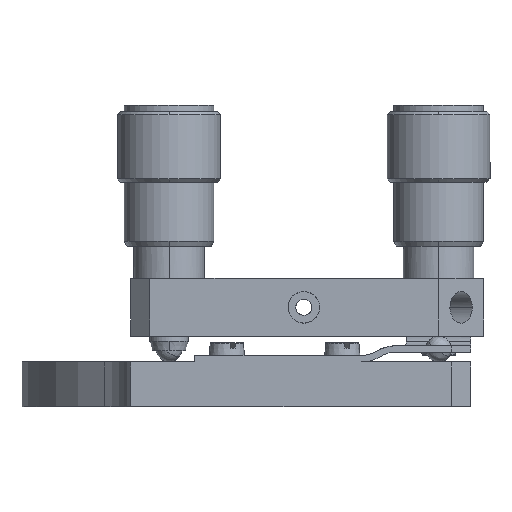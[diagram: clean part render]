
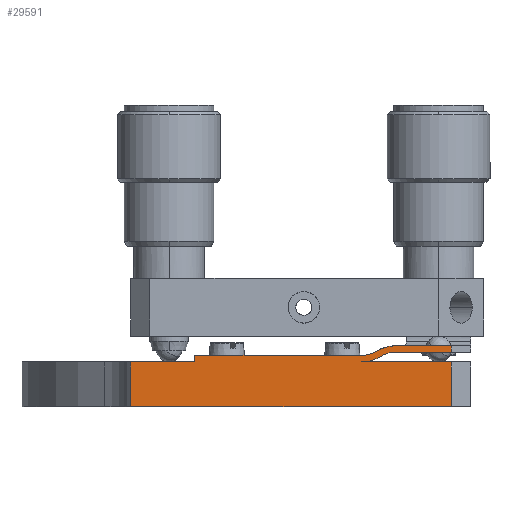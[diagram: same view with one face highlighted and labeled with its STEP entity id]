
A CAD part, left-side view. The second image highlights one B-rep face of the part: STEP entity #29591.
In plain terms, the highlighted planar face has unit normal (-1, 0, 0).
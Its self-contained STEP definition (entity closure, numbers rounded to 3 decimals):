
#7333 = CARTESIAN_POINT ( 'NONE',  ( -52.56, -23.333, -28.253 ) ) ;
#11035 = CARTESIAN_POINT ( 'NONE',  ( -52.56, 2.667, -28.253 ) ) ;
#11036 = DIRECTION ( 'NONE',  ( 0., 1., 0. ) ) ;
#11037 = VECTOR ( 'NONE', #11036, 1000. ) ;
#11038 = CARTESIAN_POINT ( 'NONE',  ( -52.56, -5.333, -28.253 ) ) ;
#11039 = LINE ( 'NONE', #11038, #11037 ) ;
#11040 = CARTESIAN_POINT ( 'NONE',  ( -52.56, 12.667, -28.253 ) ) ;
#11078 = CARTESIAN_POINT ( 'NONE',  ( -52.56, -37.333, -28.253 ) ) ;
#11079 = DIRECTION ( 'NONE',  ( 0., 1., 0. ) ) ;
#11080 = VECTOR ( 'NONE', #11079, 1000. ) ;
#11081 = CARTESIAN_POINT ( 'NONE',  ( -52.56, -5.333, -28.253 ) ) ;
#11082 = LINE ( 'NONE', #11081, #11080 ) ;
#25097 = VERTEX_POINT ( 'NONE', #7333 ) ;
#25254 = VERTEX_POINT ( 'NONE', #11040 ) ;
#25256 = EDGE_CURVE ( 'NONE', #25257, #25254, #11039, .T. ) ;
#25257 = VERTEX_POINT ( 'NONE', #11035 ) ;
#25278 = EDGE_CURVE ( 'NONE', #25280, #25097, #11082, .T. ) ;
#25280 = VERTEX_POINT ( 'NONE', #11078 ) ;
#25523 = CARTESIAN_POINT ( 'NONE',  ( -52.56, -28.319, -25.753 ) ) ;
#25600 = CARTESIAN_POINT ( 'NONE',  ( -52.56, 2.667, -27.253 ) ) ;
#25602 = DIRECTION ( 'NONE',  ( 0., 0., -1. ) ) ;
#25604 = VECTOR ( 'NONE', #25602, 1000. ) ;
#25606 = CARTESIAN_POINT ( 'NONE',  ( -52.56, 2.667, -27.753 ) ) ;
#25607 = LINE ( 'NONE', #25606, #25604 ) ;
#25630 = DIRECTION ( 'NONE',  ( 0., 1., 0. ) ) ;
#25632 = VECTOR ( 'NONE', #25630, 1000. ) ;
#25633 = CARTESIAN_POINT ( 'NONE',  ( -52.56, 2.667, -25.753 ) ) ;
#25635 = LINE ( 'NONE', #25633, #25632 ) ;
#25652 = CARTESIAN_POINT ( 'NONE',  ( -52.56, -37.333, -25.753 ) ) ;
#25681 = DIRECTION ( 'NONE',  ( 0., 0., 1. ) ) ;
#25683 = DIRECTION ( 'NONE',  ( 1., 0., 0. ) ) ;
#25685 = CARTESIAN_POINT ( 'NONE',  ( -52.56, -23.333, -22.753 ) ) ;
#25686 = AXIS2_PLACEMENT_3D ( 'NONE', #25685, #25683, #25681 ) ;
#25688 = CIRCLE ( 'NONE', #25686, 5.5 ) ;
#25703 = CARTESIAN_POINT ( 'NONE',  ( -52.56, -26.237, -27.424 ) ) ;
#25804 = DIRECTION ( 'NONE',  ( 0., -1., 0. ) ) ;
#25806 = VECTOR ( 'NONE', #25804, 1000. ) ;
#25808 = CARTESIAN_POINT ( 'NONE',  ( -52.56, 2.667, -26.753 ) ) ;
#25809 = LINE ( 'NONE', #25808, #25806 ) ;
#25933 = CARTESIAN_POINT ( 'NONE',  ( -52.56, -28.348, -26.753 ) ) ;
#25934 = CARTESIAN_POINT ( 'NONE',  ( -52.56, -37.333, -26.753 ) ) ;
#26424 = FACE_OUTER_BOUND ( 'NONE', #29605, .T. ) ;
#26513 = DIRECTION ( 'NONE',  ( 0., 0., 1. ) ) ;
#26515 = DIRECTION ( 'NONE',  ( 1., 0., 0. ) ) ;
#26516 = CARTESIAN_POINT ( 'NONE',  ( -52.56, -23.333, -22.753 ) ) ;
#26518 = AXIS2_PLACEMENT_3D ( 'NONE', #26516, #26515, #26513 ) ;
#26520 = CIRCLE ( 'NONE', #26518, 4.5 ) ;
#26525 = DIRECTION ( 'NONE',  ( 0., 0., 1. ) ) ;
#26527 = DIRECTION ( 'NONE',  ( -1., 0., 0. ) ) ;
#26529 = CARTESIAN_POINT ( 'NONE',  ( -52.56, 2.667, -27.753 ) ) ;
#26530 = AXIS2_PLACEMENT_3D ( 'NONE', #26529, #26527, #26525 ) ;
#26535 = PLANE ( 'NONE',  #26530 ) ;
#26605 = DIRECTION ( 'NONE',  ( 0., 0., -1. ) ) ;
#26606 = VECTOR ( 'NONE', #26605, 1000. ) ;
#26607 = CARTESIAN_POINT ( 'NONE',  ( -52.56, 12.667, -27.753 ) ) ;
#26609 = LINE ( 'NONE', #26607, #26606 ) ;
#26613 = CARTESIAN_POINT ( 'NONE',  ( -52.56, 12.667, -35.253 ) ) ;
#26626 = DIRECTION ( 'NONE',  ( 0., 0., -1. ) ) ;
#26628 = DIRECTION ( 'NONE',  ( -1., 0., 0. ) ) ;
#26629 = CARTESIAN_POINT ( 'NONE',  ( -52.56, -28.614, -31.245 ) ) ;
#26631 = AXIS2_PLACEMENT_3D ( 'NONE', #26629, #26628, #26626 ) ;
#26632 = CIRCLE ( 'NONE', #26631, 5.5 ) ;
#26658 = CARTESIAN_POINT ( 'NONE',  ( -52.56, -25.709, -26.575 ) ) ;
#26676 = CARTESIAN_POINT ( 'NONE',  ( -52.56, -28.305, -25.754 ) ) ;
#26746 = DIRECTION ( 'NONE',  ( 0., 0., -1. ) ) ;
#26748 = DIRECTION ( 'NONE',  ( 1., 0., 0. ) ) ;
#26750 = CARTESIAN_POINT ( 'NONE',  ( -52.56, -28.614, -31.245 ) ) ;
#26752 = AXIS2_PLACEMENT_3D ( 'NONE', #26750, #26748, #26746 ) ;
#26754 = CIRCLE ( 'NONE', #26752, 4.5 ) ;
#26772 = CARTESIAN_POINT ( 'NONE',  ( -52.56, -23.333, -27.253 ) ) ;
#26899 = DIRECTION ( 'NONE',  ( 0., 0., -1. ) ) ;
#26901 = VECTOR ( 'NONE', #26899, 1000. ) ;
#26903 = CARTESIAN_POINT ( 'NONE',  ( -52.56, -37.333, -27.003 ) ) ;
#26904 = LINE ( 'NONE', #26903, #26901 ) ;
#26927 = DIRECTION ( 'NONE',  ( 0., -0.998, 0.056 ) ) ;
#26928 = VECTOR ( 'NONE', #26927, 1000. ) ;
#26931 = CARTESIAN_POINT ( 'NONE',  ( -52.56, -28.305, -25.754 ) ) ;
#26932 = LINE ( 'NONE', #26931, #26928 ) ;
#26995 = LINE ( 'NONE', #27080, #27053 ) ;
#27051 = DIRECTION ( 'NONE',  ( 0., 1., 0. ) ) ;
#27053 = VECTOR ( 'NONE', #27051, 1000. ) ;
#27080 = CARTESIAN_POINT ( 'NONE',  ( -52.56, 2.667, -27.253 ) ) ;
#27114 = CARTESIAN_POINT ( 'NONE',  ( -52.56, -37.333, -35.253 ) ) ;
#27116 = DIRECTION ( 'NONE',  ( 0., -1., 0. ) ) ;
#27117 = VECTOR ( 'NONE', #27116, 1000. ) ;
#27120 = CARTESIAN_POINT ( 'NONE',  ( -52.56, 2.667, -35.253 ) ) ;
#27209 = LINE ( 'NONE', #27120, #27117 ) ;
#27456 = DIRECTION ( 'NONE',  ( 0., 0., 1. ) ) ;
#27457 = VECTOR ( 'NONE', #27456, 1000. ) ;
#27459 = CARTESIAN_POINT ( 'NONE',  ( -52.56, -37.333, -27.753 ) ) ;
#27461 = LINE ( 'NONE', #27459, #27457 ) ;
#29255 = VERTEX_POINT ( 'NONE', #25523 ) ;
#29271 = VERTEX_POINT ( 'NONE', #25652 ) ;
#29280 = EDGE_CURVE ( 'NONE', #29271, #29255, #25635, .T. ) ;
#29292 = EDGE_CURVE ( 'NONE', #29302, #25257, #25607, .T. ) ;
#29302 = VERTEX_POINT ( 'NONE', #25600 ) ;
#29313 = VERTEX_POINT ( 'NONE', #25703 ) ;
#29318 = EDGE_CURVE ( 'NONE', #29313, #25097, #25688, .T. ) ;
#29364 = EDGE_CURVE ( 'NONE', #29369, #29368, #25809, .T. ) ;
#29368 = VERTEX_POINT ( 'NONE', #25934 ) ;
#29369 = VERTEX_POINT ( 'NONE', #25933 ) ;
#29591 = ADVANCED_FACE ( 'NONE', ( #26424 ), #26535, .T. ) ;
#29592 = ORIENTED_EDGE ( 'NONE', *, *, #29667, .T. ) ;
#29593 = EDGE_CURVE ( 'NONE', #29656, #29706, #26520, .T. ) ;
#29605 = EDGE_LOOP ( 'NONE', ( #29592, #29729, #29654, #29758, #29638, #29743, #29665, #29857, #29783, #29717, #29813, #29842, #29844, #29709, #29712 ) ) ;
#29608 = VERTEX_POINT ( 'NONE', #26613 ) ;
#29609 = EDGE_CURVE ( 'NONE', #25254, #29608, #26609, .T. ) ;
#29638 = ORIENTED_EDGE ( 'NONE', *, *, #29740, .F. ) ;
#29641 = VERTEX_POINT ( 'NONE', #26676 ) ;
#29654 = ORIENTED_EDGE ( 'NONE', *, *, #29752, .F. ) ;
#29656 = VERTEX_POINT ( 'NONE', #26658 ) ;
#29663 = EDGE_CURVE ( 'NONE', #29641, #29656, #26632, .T. ) ;
#29665 = ORIENTED_EDGE ( 'NONE', *, *, #29593, .T. ) ;
#29667 = EDGE_CURVE ( 'NONE', #29313, #29369, #26754, .T. ) ;
#29706 = VERTEX_POINT ( 'NONE', #26772 ) ;
#29709 = ORIENTED_EDGE ( 'NONE', *, *, #25278, .T. ) ;
#29712 = ORIENTED_EDGE ( 'NONE', *, *, #29318, .F. ) ;
#29717 = ORIENTED_EDGE ( 'NONE', *, *, #25256, .T. ) ;
#29729 = ORIENTED_EDGE ( 'NONE', *, *, #29364, .T. ) ;
#29740 = EDGE_CURVE ( 'NONE', #29641, #29255, #26932, .T. ) ;
#29743 = ORIENTED_EDGE ( 'NONE', *, *, #29663, .T. ) ;
#29752 = EDGE_CURVE ( 'NONE', #29271, #29368, #26904, .T. ) ;
#29758 = ORIENTED_EDGE ( 'NONE', *, *, #29280, .T. ) ;
#29783 = ORIENTED_EDGE ( 'NONE', *, *, #29292, .T. ) ;
#29785 = EDGE_CURVE ( 'NONE', #29706, #29302, #26995, .T. ) ;
#29801 = EDGE_CURVE ( 'NONE', #29608, #29802, #27209, .T. ) ;
#29802 = VERTEX_POINT ( 'NONE', #27114 ) ;
#29813 = ORIENTED_EDGE ( 'NONE', *, *, #29609, .T. ) ;
#29842 = ORIENTED_EDGE ( 'NONE', *, *, #29801, .T. ) ;
#29844 = ORIENTED_EDGE ( 'NONE', *, *, #29845, .T. ) ;
#29845 = EDGE_CURVE ( 'NONE', #29802, #25280, #27461, .T. ) ;
#29857 = ORIENTED_EDGE ( 'NONE', *, *, #29785, .T. ) ;
